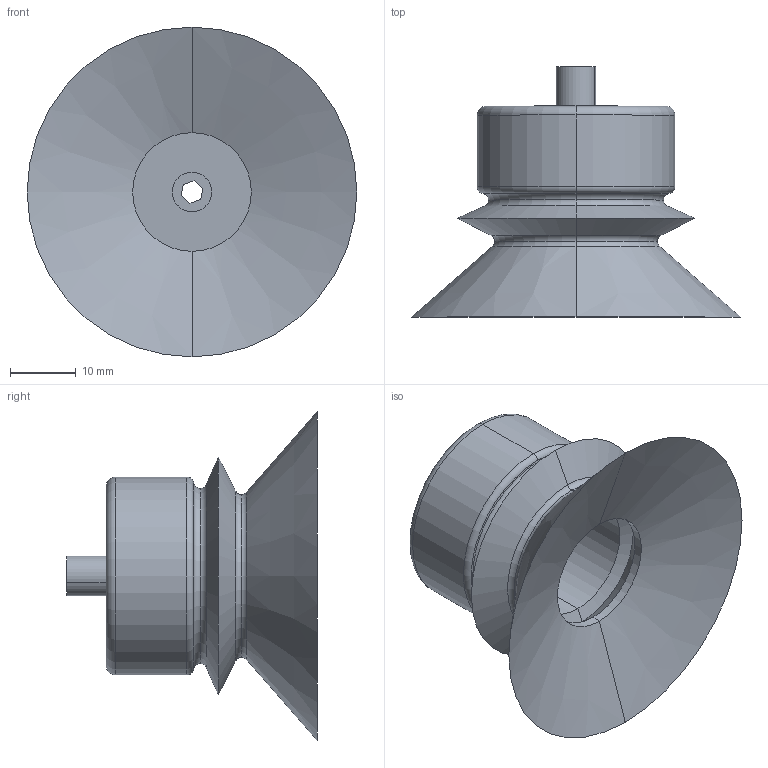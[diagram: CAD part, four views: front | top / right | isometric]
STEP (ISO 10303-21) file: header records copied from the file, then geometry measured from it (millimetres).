
FILE_DESCRIPTION (( 'STEP AP203' ), '1' );
FILE_NAME ('00023813 - 50MM VACUUM CUP ASSY.step', '2013-04-05T16:25:27', ( '' ), ( '' ), 'SwSTEP 2.0', 'SolidWorks 2012', '' );
FILE_SCHEMA (( 'CONFIG_CONTROL_DESIGN' ));
Length unit declared in the file: millimetre
Products named in the file (1): 00023813 - 50MM VACUUM CUP ASSY
Bounding box: 50 x 38 x 50 mm (x, y, z)
Surface area: 8454 mm2 (no closed solid volume)
Topology: 0 solids, 2 shells, 42 faces, 92 edges, 52 vertices
Faces by surface type: cone 14, torus 12, cylinder 8, plane 8
Entity records: 1214 total; most frequent: DIRECTION 230, CARTESIAN_POINT 187, ORIENTED_EDGE 172, AXIS2_PLACEMENT_3D 95, EDGE_CURVE 92, CIRCLE 52, VERTEX_POINT 52, EDGE_LOOP 44
